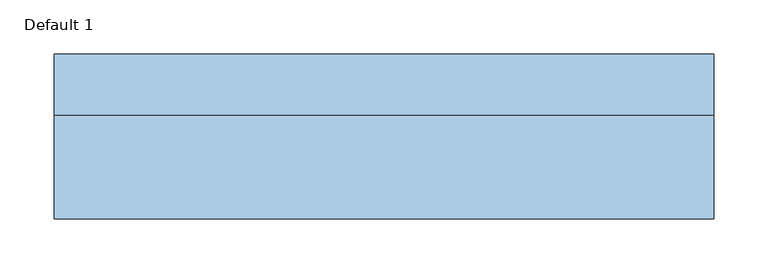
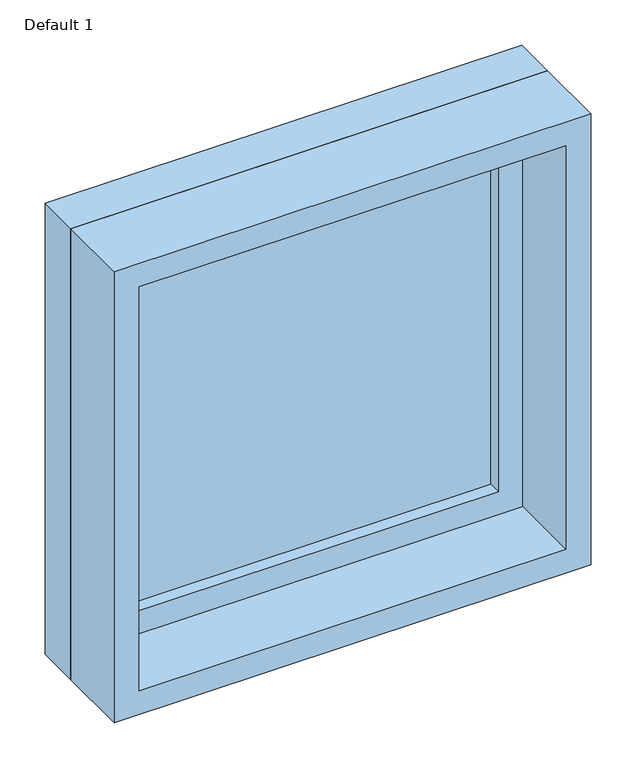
"""IFC4 building model written with IfcOpenShell, lengths in millimetres: window geometry, Planitar-Fixed : Default 1."""

from ifc_helpers import new_model, si_unit, frame, origin, place, context, project, spatial, polyline, outline, extrude, source, transform, mapped, element, save


def default_1_bc1e4ced(model_context):
    return source(origin(), model_context, "Body", "SweptSolid", [
        extrude(outline(polyline([(1505.0, -285.8), (933.4, -285.8), (933.4, 285.8), (1505.0, 285.8), (1505.0, -285.8)]), holes=[polyline([(1461.0, -241.8), (1461.0, 241.8), (977.4, 241.8), (977.4, -241.8), (1461.0, -241.8)])]), frame((0.0, 32.5, 0.0), z_axis=(0.0, 1.0, 0.0), x_axis=(0.0, 0.0, 1.0)), (0.0, 0.0, 1.0), 44.0),
        extrude(outline(polyline([(1524.0, -304.8), (914.4, -304.8), (914.4, 304.8), (1524.0, 304.8), (1524.0, -304.8)]), holes=[polyline([(1505.0, -285.8), (1505.0, 285.8), (933.4, 285.8), (933.4, -285.8), (1505.0, -285.8)])]), frame((0.0, 32.5, 0.0), z_axis=(0.0, 1.0, 0.0), x_axis=(0.0, 0.0, 1.0)), (0.0, 0.0, 1.0), 56.7),
        extrude(outline(polyline([(1524.0, -304.8), (914.4, -304.8), (914.4, 304.8), (1524.0, 304.8), (1524.0, -304.8)]), holes=[polyline([(1492.0, -272.8), (1492.0, 272.8), (946.4, 272.8), (946.4, -272.8), (1492.0, -272.8)])]), frame((0.0, -63.2, 0.0), z_axis=(0.0, 1.0, 0.0), x_axis=(0.0, 0.0, 1.0)), (0.0, 0.0, 1.0), 95.7),
        extrude(outline(polyline([(-241.8, 60.5), (241.8, 60.5), (241.8, 48.5), (-241.8, 48.5), (-241.8, 60.5)])), frame((0.0, 0.0, 977.4), z_axis=(0.0, 0.0, 1.0), x_axis=(1.0, 0.0, 0.0)), (0.0, 0.0, 1.0), 483.6),
    ])


if __name__ == "__main__":
    model = new_model("IFC4")
    model_context = context("Model", 3, world=origin())
    ifc_project = project(units=[si_unit("LENGTHUNIT", "METRE", prefix="MILLI")], contexts=[model_context])
    site = spatial("IfcSite", under=ifc_project)
    building = spatial("IfcBuilding", under=site)
    placement = place(None, origin())
    default_1_shape = default_1_bc1e4ced(model_context)
    element("IfcWindow", 1, ObjectType="Planitar-Fixed : Default 1", at=placement, inside=building, context=model_context, shape_type="MappedRepresentation", body=[
        mapped(default_1_shape, transform((0.0, 0.0, 0.0), x_axis=(1.0, 0.0, 0.0), y_axis=(0.0, 1.0, 0.0), z_axis=(0.0, 0.0, 1.0))),
    ])
    save(model, "model.ifc")
